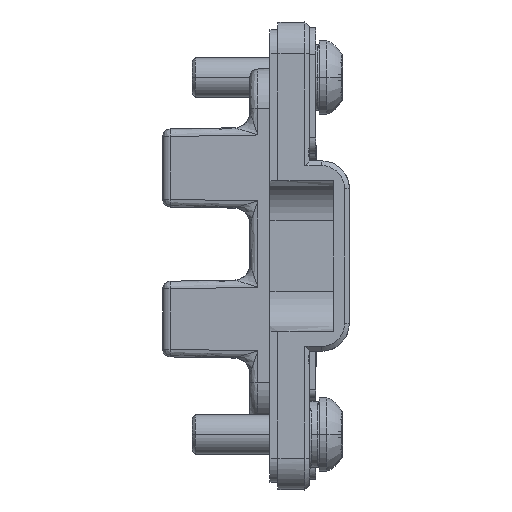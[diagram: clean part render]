
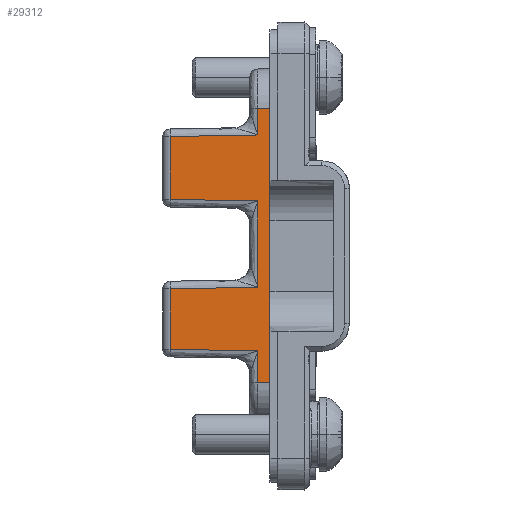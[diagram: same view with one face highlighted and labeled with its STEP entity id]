
A CAD part, front view. The second image highlights one B-rep face of the part: STEP entity #29312.
In plain terms, the highlighted free-form (B-spline) face has degree [1, 1] with [2, 2] control points.
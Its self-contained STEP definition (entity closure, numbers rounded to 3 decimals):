
#6444=CARTESIAN_POINT('',(-0.769,14.163,
54.171));
#6468=DIRECTION('',(0.,0.,-1.));
#6469=VECTOR('',#6468,2.021);
#6470=CARTESIAN_POINT('',(-0.769,14.163,
54.171));
#6471=LINE('',#6470,#6469);
#6620=CARTESIAN_POINT('',(-0.769,14.163,
58.179));
#6641=CARTESIAN_POINT('',(-0.769,14.163,
63.621));
#6665=DIRECTION('',(0.,0.,-1.));
#6666=VECTOR('',#6665,5.443);
#6667=CARTESIAN_POINT('',(-0.769,14.163,
63.621));
#6668=LINE('',#6667,#6666);
#6835=CARTESIAN_POINT('',(-0.769,14.163,
67.779));
#6879=DIRECTION('',(0.,0.,-1.));
#6880=VECTOR('',#6879,1.671);
#6881=CARTESIAN_POINT('',(-0.769,14.163,
69.45));
#6882=LINE('',#6881,#6880);
#6883=DIRECTION('',(-1.,0.017,0.017));
#6884=VECTOR('',#6883,5.521);
#6885=CARTESIAN_POINT('',(-0.769,14.163,
54.171));
#6886=LINE('',#6885,#6884);
#6887=DIRECTION('',(0.,0.,1.));
#6888=VECTOR('',#6887,3.815);
#6889=CARTESIAN_POINT('',(-6.288,14.26,54.268));
#6890=LINE('',#6889,#6888);
#6891=DIRECTION('',(1.,-0.017,0.017));
#6892=VECTOR('',#6891,5.521);
#6893=CARTESIAN_POINT('',(-6.288,14.26,58.082));
#6894=LINE('',#6893,#6892);
#6895=DIRECTION('',(-1.,0.017,0.017));
#6896=VECTOR('',#6895,5.521);
#6897=CARTESIAN_POINT('',(-0.769,14.163,
63.621));
#6898=LINE('',#6897,#6896);
#6899=DIRECTION('',(0.,0.,1.));
#6900=VECTOR('',#6899,3.965);
#6901=CARTESIAN_POINT('',(-6.288,14.26,63.718));
#6902=LINE('',#6901,#6900);
#6903=DIRECTION('',(1.,-0.017,0.017));
#6904=VECTOR('',#6903,5.521);
#6905=CARTESIAN_POINT('',(-6.288,14.26,67.682));
#6906=LINE('',#6905,#6904);
#6907=DIRECTION('',(-1.,0.017,0.));
#6908=VECTOR('',#6907,0.769);
#6909=CARTESIAN_POINT('',(0.,14.15,69.45));
#6910=LINE('',#6909,#6908);
#6911=DIRECTION('',(0.,0.,-1.));
#6912=VECTOR('',#6911,17.3);
#6913=CARTESIAN_POINT('',(0.,14.15,69.45));
#6914=LINE('',#6913,#6912);
#7129=DIRECTION('',(-1.,0.017,0.));
#7130=VECTOR('',#7129,0.769);
#7131=CARTESIAN_POINT('',(0.,14.15,52.15));
#7132=LINE('',#7131,#7130);
#7988=CARTESIAN_POINT('',(-0.769,14.163,
52.15));
#7990=VERTEX_POINT('',#7988);
#8003=CARTESIAN_POINT('',(-0.769,14.163,
69.45));
#8005=VERTEX_POINT('',#8003);
#8123=CARTESIAN_POINT('',(-6.288,14.26,54.268));
#8124=CARTESIAN_POINT('',(-6.288,14.26,58.082));
#8125=VERTEX_POINT('',#8123);
#8126=VERTEX_POINT('',#8124);
#8127=CARTESIAN_POINT('',(-6.288,14.26,63.718));
#8128=CARTESIAN_POINT('',(-6.288,14.26,67.682));
#8129=VERTEX_POINT('',#8127);
#8130=VERTEX_POINT('',#8128);
#8193=VERTEX_POINT('',#6835);
#8211=VERTEX_POINT('',#6641);
#8213=VERTEX_POINT('',#6620);
#8231=VERTEX_POINT('',#6444);
#8305=CARTESIAN_POINT('',(0.,14.15,69.45));
#8307=VERTEX_POINT('',#8305);
#8318=CARTESIAN_POINT('',(0.,14.15,52.15));
#8319=VERTEX_POINT('',#8318);
#29287=CARTESIAN_POINT('',(-6.414,14.262,
51.804));
#29288=CARTESIAN_POINT('',(-6.414,14.262,
69.796));
#29289=CARTESIAN_POINT('',(0.126,14.148,
51.804));
#29290=CARTESIAN_POINT('',(0.126,14.148,
69.796));
#29291=B_SPLINE_SURFACE_WITH_KNOTS('',1,1,((#29287,#29288),(#29289,#29290)),
.UNSPECIFIED.,.F.,.F.,.F.,(2,2),(2,2),(-3.035,3.506),(
-4.371,13.621),.UNSPECIFIED.);
#29293=ORIENTED_EDGE('',*,*,#29292,.T.);
#29295=ORIENTED_EDGE('',*,*,#29294,.T.);
#29296=ORIENTED_EDGE('',*,*,#28445,.T.);
#29297=ORIENTED_EDGE('',*,*,#28580,.F.);
#29299=ORIENTED_EDGE('',*,*,#29298,.T.);
#29301=ORIENTED_EDGE('',*,*,#29300,.T.);
#29302=ORIENTED_EDGE('',*,*,#29134,.T.);
#29303=ORIENTED_EDGE('',*,*,#29270,.F.);
#29305=ORIENTED_EDGE('',*,*,#29304,.F.);
#29306=ORIENTED_EDGE('',*,*,#9588,.T.);
#29308=ORIENTED_EDGE('',*,*,#29307,.T.);
#29309=ORIENTED_EDGE('',*,*,#27891,.F.);
#29310=EDGE_LOOP('',(#29293,#29295,#29296,#29297,#29299,#29301,#29302,#29303,
#29305,#29306,#29308,#29309));
#29311=FACE_OUTER_BOUND('',#29310,.F.);
#29312=ADVANCED_FACE('',(#29311),#29291,.T.);
#9588=EDGE_CURVE('',#8307,#8319,#6914,.T.);
#27891=EDGE_CURVE('',#8231,#7990,#6471,.T.);
#28445=EDGE_CURVE('',#8126,#8213,#6894,.T.);
#28580=EDGE_CURVE('',#8211,#8213,#6668,.T.);
#29134=EDGE_CURVE('',#8130,#8193,#6906,.T.);
#29270=EDGE_CURVE('',#8005,#8193,#6882,.T.);
#29292=EDGE_CURVE('',#8231,#8125,#6886,.T.);
#29294=EDGE_CURVE('',#8125,#8126,#6890,.T.);
#29298=EDGE_CURVE('',#8211,#8129,#6898,.T.);
#29300=EDGE_CURVE('',#8129,#8130,#6902,.T.);
#29304=EDGE_CURVE('',#8307,#8005,#6910,.T.);
#29307=EDGE_CURVE('',#8319,#7990,#7132,.T.);
